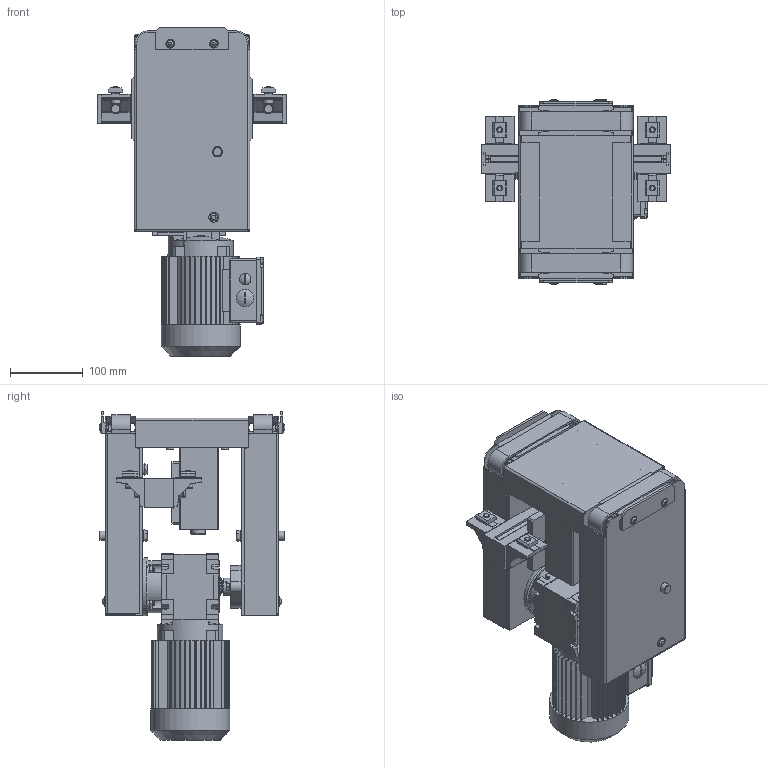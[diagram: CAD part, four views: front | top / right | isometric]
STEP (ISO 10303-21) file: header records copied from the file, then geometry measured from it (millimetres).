
FILE_DESCRIPTION(/* description */ (''),/* implementation_level */ '2;1');
FILE_NAME(/* name */ 'C:\Marketing\01_Versamove-SPU_STEP-Dateien-Homepage\VersamoveStandard\B240\STEP-Dateien\Hub-Querförderer_HQZ-2045_B240.stp',/* time_stamp */ '2016-12-19T16:23:33+01:00',/* author */ ('herbert.engels'),/* organization */ (''),/* preprocessor_version */ 'ST-DEVELOPER v15.6',/* originating_system */ 'Autodesk Inventor 2015',/* authorisation */ '');
FILE_SCHEMA (('CONFIG_CONTROL_DESIGN'));
Products named in the file (1): Hub-Querförderer_HQZ-2045_B240
Bounding box: 260 x 255.5 x 451.48 mm (x, y, z)
Volume: 5198796.9 mm3; surface area: 1114407.7 mm2
Topology: 4 solids, 4 shells, 2750 faces, 7964 edges, 5193 vertices
Faces by surface type: plane 1893, cylinder 721, cone 104, torus 20, sphere 12
Full cylindrical faces by diameter (mm): 1.7 x12, 4.917 x2, 5 x4, 6 x6, 6.5 x2, 8 x22, 8.7 x2, 10 x6, 11 x4, 11.4 x4, 11.8 x4, 12 x8, 13 x14, 13.6 x2, 14 x14, 14.3 x2, 15 x4, 15.2 x4, 16 x8, 20 x2, 23.9 x2, 24 x1, 25 x2, 25.127 x1, 31.873 x1, 33.223 x2, 38.158 x1, 39 x1, 50 x1, 80 x1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
Entity records: 91723 total; most frequent: CARTESIAN_POINT 16988, ORIENTED_EDGE 15274, DIRECTION 14539, EDGE_CURVE 7636, LINE 5515, VECTOR 5515, VERTEX_POINT 5084, AXIS2_PLACEMENT_3D 4512
